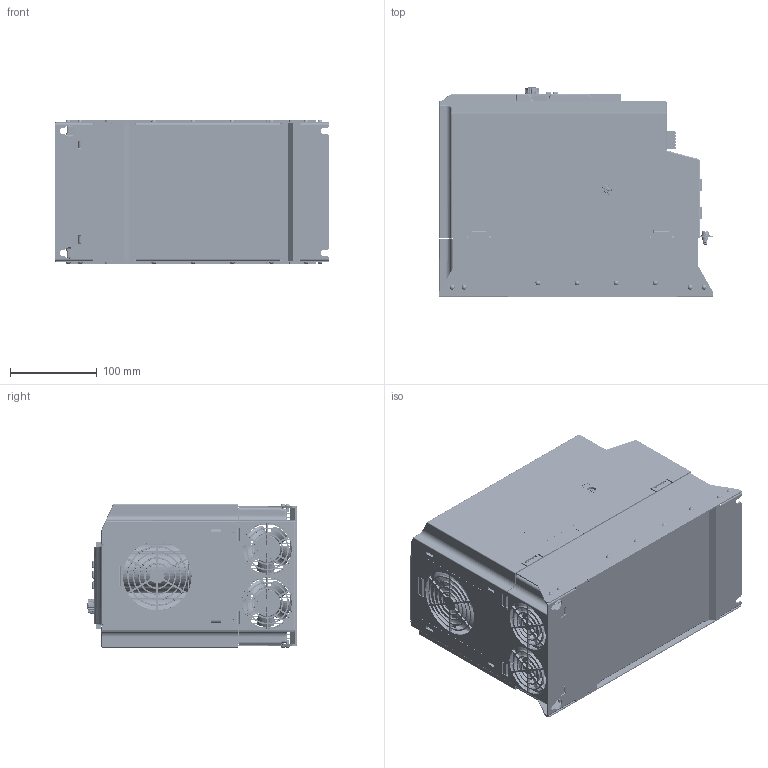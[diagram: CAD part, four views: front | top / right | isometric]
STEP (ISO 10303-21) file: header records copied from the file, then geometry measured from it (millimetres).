
FILE_DESCRIPTION((''),'2;1');
FILE_NAME('00_2013_EFC5610_22K_ASM','2018-04-13T',('liw2xi'),(''),'PRO/ENGINEER BY PARAMETRIC TECHNOLOGY CORPORATION, 2009380','PRO/ENGINEER BY PARAMETRIC TECHNOLOGY CORPORATION, 2009380','');
FILE_SCHEMA(('STRUCTURAL_ANALYSIS_DESIGN'));
Length unit declared in the file: millimetre
Products named in the file (967): HEATSINK_ASSEMBLY_E_AF1; 123_E_AF1; RADIATOR_1_E; LDZHJ_SZCYZT_M4X10_E; RIVETING_E; RIVETING_E_AF0; RIVETING_E_AF1; VFC-5610-18K5_YMB_HOLDER_1_E; PE-2_E; PE_1_E; LDZHJ_SZCYZT_M4X12_E; HEATSINK_HOUSING_E_ASM; PCBA_YMB_18K5_E; SKIP_37NAB1274V1_E; PRT0012_E; 855AP-1A-C_E; RESISTER_AC10_E; RESISTER_AC10-B_E; E_ESK150V_6PIN_UVW_E; YMB_22K_E_ASM; SKIP_37NAB1274V1_COVER_E; LD_KCCT_M4X30_E; PRT0198; EXTRUDED-47430; 846045072_ASM; EXTRUDED-47807; 846045200_ASM; ASM0423_ASM; EXTRUDED-48210; 741394960_ASM; EXTRUDED-48587; 846044688_ASM; ASM0424_ASM; ASM0425_ASM; EXTRUDED-49036; 846055952_ASM; EXTRUDED-49413; 846056080_ASM; ASM0426_ASM; EXTRUDED-49816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
Assembly tree (3194 placements, depth 6):
  00_2013_EFC5610_22K_ASM
    HEATSINK_HOUSING_E_ASM
      HEATSINK_ASSEMBLY_E_AF1
      123_E_AF1
      RADIATOR_1_E
      LDZHJ_SZCYZT_M4X10_E  x6
      RIVETING_E  x14
      RIVETING_E_AF0
      RIVETING_E_AF1
      VFC-5610-18K5_YMB_HOLDER_1_E
      PE-2_E
      PE_1_E
      LDZHJ_SZCYZT_M4X12_E
    YMB_22K_E_ASM
      PCBA_YMB_18K5_E
      SKIP_37NAB1274V1_E  x2
      PRT0012_E  x6
      855AP-1A-C_E  x4
      RESISTER_AC10_E  x3
      RESISTER_AC10-B_E  x2
      E_ESK150V_6PIN_UVW_E
    SKIP_37NAB1274V1_COVER_E  x2
    LD_KCCT_M4X30_E  x4
    LDZHJ_SZCYZT_M4X10_E  x4
    YST02_2016_5_13_ASM
      ASM0422_ASM
        PRT0198
        ASM0423_ASM
          846045072_ASM  x2
            EXTRUDED-47430
          846045200_ASM
            EXTRUDED-47807
        ASM0424_ASM
          741394960_ASM  x2
            EXTRUDED-48210
          846044688_ASM
            EXTRUDED-48587
        ASM0425_ASM
          741394960_ASM  x2
            EXTRUDED-48210
          846044688_ASM
            EXTRUDED-48587
        ASM0426_ASM
          846055952_ASM  x2
            EXTRUDED-49036
          846056080_ASM
            EXTRUDED-49413
        ASM0427_ASM
          846045712_ASM  x2
            EXTRUDED-49816
          846045840_ASM
            EXTRUDED-50193
        ASM0428_ASM
          846045072_ASM  x2
            EXTRUDED-47430
          846045200_ASM
            EXTRUDED-47807
        ASM0429_ASM
          846045072_ASM  x2
            EXTRUDED-47430
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Bounding box: 315.25 x 240.55 x 166 mm (x, y, z)
Volume: 3531510.4 mm3; surface area: 2483971.3 mm2
Topology: 2516 solids, 3153 shells, 33776 faces, 83314 edges, 55674 vertices
Faces by surface type: plane 25374, cylinder 5462, bspline 1092, cone 763, torus 624, extrusion 231, sphere 230
Entity records: 685832 total; most frequent: CARTESIAN_POINT 183333, DIRECTION 104836, ORIENTED_EDGE 95133, EDGE_CURVE 49344, VECTOR 35146, LINE 34915, AXIS2_PLACEMENT_3D 34845, VERTEX_POINT 33247
